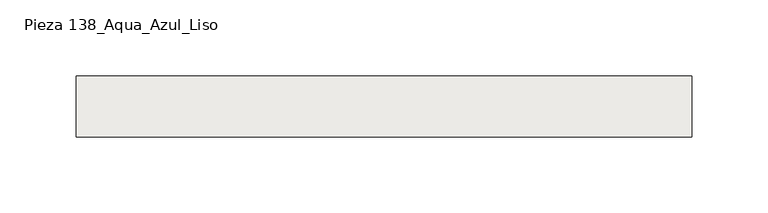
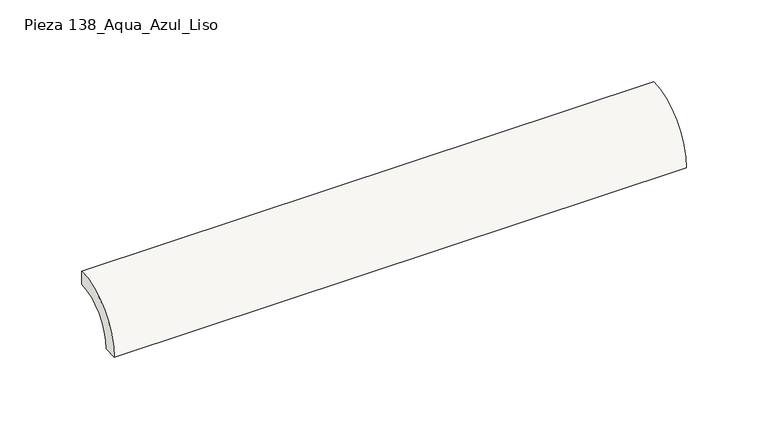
"""IFC4 building model written with IfcOpenShell, lengths in millimetres: slab geometry, ROSA GRES_138 : Pieza 138_Aqua_Azul_Liso."""

from ifc_helpers import new_model, si_unit, point, frame, frame_2d, origin, origin_2d, place, context, project, spatial, polyline, circle_curve, trimmed, segment, composite_curve, outline, extrude, source, transform, mapped, element, save


def pieza_138_aqua_azul_liso_be5017b2(model_context):
    return source(origin(), model_context, "Body", "SweptSolid", [
        extrude(outline(composite_curve([segment(polyline([(0.0, 40.0), (0.0, 30.0265886)]), True, "CONTINUOUS"), segment(trimmed(circle_curve(frame_2d((-0.0044453, 0.0044453)), 30.0221435), [point((0.0, 30.0265886))], [point((-30.0265886, 0.0))], True, "CARTESIAN"), True, "CONTINUOUS"), segment(polyline([(-30.0265886, 0.0), (-40.0, 0.0)]), True, "CONTINUOUS"), segment(trimmed(circle_curve(origin_2d(), 40.0), [point((-40.0, 0.0))], [point((0.0, 40.0))], False, "CARTESIAN"), True, "CONTINUOUS")], self_intersect=False)), frame((0.0, 0.0, 0.0), z_axis=(1.0, 0.0, 0.0), x_axis=(0.0, 1.0, 0.0)), (0.0, 0.0, 1.0), 404.2175263),
    ])


if __name__ == "__main__":
    model = new_model("IFC4")
    model_context = context("Model", 3, world=origin())
    ifc_project = project(units=[si_unit("LENGTHUNIT", "METRE", prefix="MILLI")], contexts=[model_context])
    site = spatial("IfcSite", under=ifc_project)
    building = spatial("IfcBuilding", under=site)
    placement = place(None, origin())
    pieza_138_aqua_azul_liso_shape = pieza_138_aqua_azul_liso_be5017b2(model_context)
    element("IfcSlab", 1, ObjectType="ROSA GRES_138 : Pieza 138_Aqua_Azul_Liso", at=placement, inside=building, context=model_context, shape_type="MappedRepresentation", body=[
        mapped(pieza_138_aqua_azul_liso_shape, transform((0.0, 0.0, 0.0), x_axis=(1.0, 0.0, 0.0), y_axis=(0.0, 1.0, 0.0), z_axis=(0.0, 0.0, 1.0))),
    ])
    save(model, "model.ifc")
